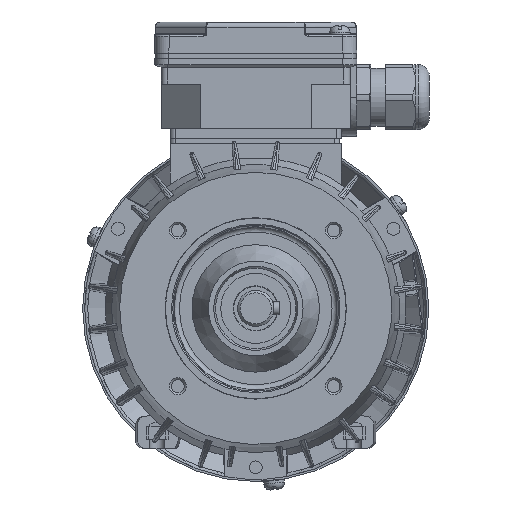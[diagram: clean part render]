
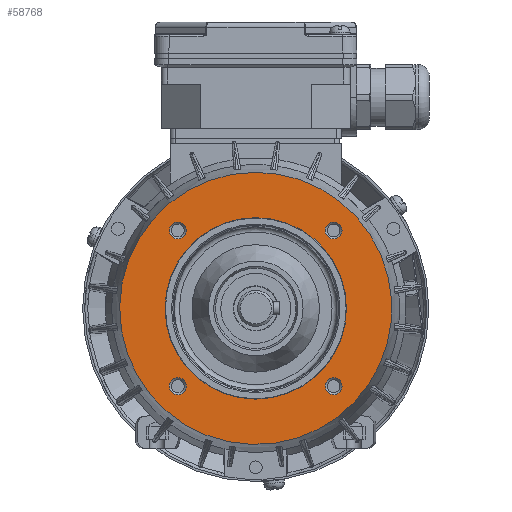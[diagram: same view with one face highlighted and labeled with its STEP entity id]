
A CAD part, front view. The second image highlights one B-rep face of the part: STEP entity #58768.
In plain terms, the highlighted planar face has unit normal (0, -1, 0).
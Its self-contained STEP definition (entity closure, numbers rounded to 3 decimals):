
#4099=CIRCLE('',#61726,35.);
#4100=CIRCLE('',#61728,3.259);
#4101=CIRCLE('',#61730,3.259);
#4102=CIRCLE('',#61732,3.259);
#4103=CIRCLE('',#61734,3.259);
#4220=CIRCLE('',#61926,52.5);
#9878=ORIENTED_EDGE('',*,*,#20381,.T.);
#9879=ORIENTED_EDGE('',*,*,#20380,.T.);
#9880=ORIENTED_EDGE('',*,*,#20379,.T.);
#9881=ORIENTED_EDGE('',*,*,#20378,.T.);
#9882=ORIENTED_EDGE('',*,*,#20377,.F.);
#9883=ORIENTED_EDGE('',*,*,#20692,.T.);
#20377=EDGE_CURVE('',#26194,#26194,#4099,.T.);
#20378=EDGE_CURVE('',#26195,#26195,#4100,.T.);
#20379=EDGE_CURVE('',#26196,#26196,#4101,.T.);
#20380=EDGE_CURVE('',#26197,#26197,#4102,.T.);
#20381=EDGE_CURVE('',#26198,#26198,#4103,.T.);
#20692=EDGE_CURVE('',#26402,#26402,#4220,.T.);
#26194=VERTEX_POINT('',#81922);
#26195=VERTEX_POINT('',#81925);
#26196=VERTEX_POINT('',#81928);
#26197=VERTEX_POINT('',#81931);
#26198=VERTEX_POINT('',#81934);
#26402=VERTEX_POINT('',#84552);
#35370=EDGE_LOOP('',(#9878));
#35371=EDGE_LOOP('',(#9879));
#35372=EDGE_LOOP('',(#9880));
#35373=EDGE_LOOP('',(#9881));
#35374=EDGE_LOOP('',(#9882));
#35375=EDGE_LOOP('',(#9883));
#38170=FACE_BOUND('',#35370,.T.);
#38171=FACE_BOUND('',#35371,.T.);
#38172=FACE_BOUND('',#35372,.T.);
#38173=FACE_BOUND('',#35373,.T.);
#38174=FACE_BOUND('',#35374,.T.);
#38175=FACE_BOUND('',#35375,.T.);
#40300=PLANE('',#61925);
#58768=ADVANCED_FACE('',(#38170,#38171,#38172,#38173,#38174,#38175),#40300,
 .F.);
#61726=AXIS2_PLACEMENT_3D('',#81921,#68402,#68403);
#61728=AXIS2_PLACEMENT_3D('',#81924,#68406,#68407);
#61730=AXIS2_PLACEMENT_3D('',#81927,#68410,#68411);
#61732=AXIS2_PLACEMENT_3D('',#81930,#68414,#68415);
#61734=AXIS2_PLACEMENT_3D('',#81933,#68418,#68419);
#61925=AXIS2_PLACEMENT_3D('',#84550,#68844,#68845);
#61926=AXIS2_PLACEMENT_3D('',#84551,#68846,#68847);
#68402=DIRECTION('',(0.,-1.,0.));
#68403=DIRECTION('',(0.,0.,1.));
#68406=DIRECTION('',(0.,1.,0.));
#68407=DIRECTION('',(1.,0.,0.));
#68410=DIRECTION('',(0.,1.,0.));
#68411=DIRECTION('',(1.,0.,0.));
#68414=DIRECTION('',(0.,1.,0.));
#68415=DIRECTION('',(1.,0.,0.));
#68418=DIRECTION('',(0.,1.,0.));
#68419=DIRECTION('',(1.,0.,0.));
#68844=DIRECTION('',(0.,1.,0.));
#68845=DIRECTION('',(0.,0.,-1.));
#68846=DIRECTION('',(0.,-1.,0.));
#68847=DIRECTION('',(0.,0.,1.));
#81921=CARTESIAN_POINT('',(0.,-41.,0.));
#81922=CARTESIAN_POINT('',(0.,-41.,35.));
#81924=CARTESIAN_POINT('',(30.052,-41.,30.052));
#81925=CARTESIAN_POINT('',(33.311,-41.,30.052));
#81927=CARTESIAN_POINT('',(30.052,-41.,-30.052));
#81928=CARTESIAN_POINT('',(33.311,-41.,-30.052));
#81930=CARTESIAN_POINT('',(-30.052,-41.,-30.052));
#81931=CARTESIAN_POINT('',(-26.794,-41.,-30.052));
#81933=CARTESIAN_POINT('',(-30.052,-41.,30.052));
#81934=CARTESIAN_POINT('',(-26.794,-41.,30.052));
#84550=CARTESIAN_POINT('',(0.,-41.,52.5));
#84551=CARTESIAN_POINT('',(0.,-41.,0.));
#84552=CARTESIAN_POINT('',(0.,-41.,52.5));
